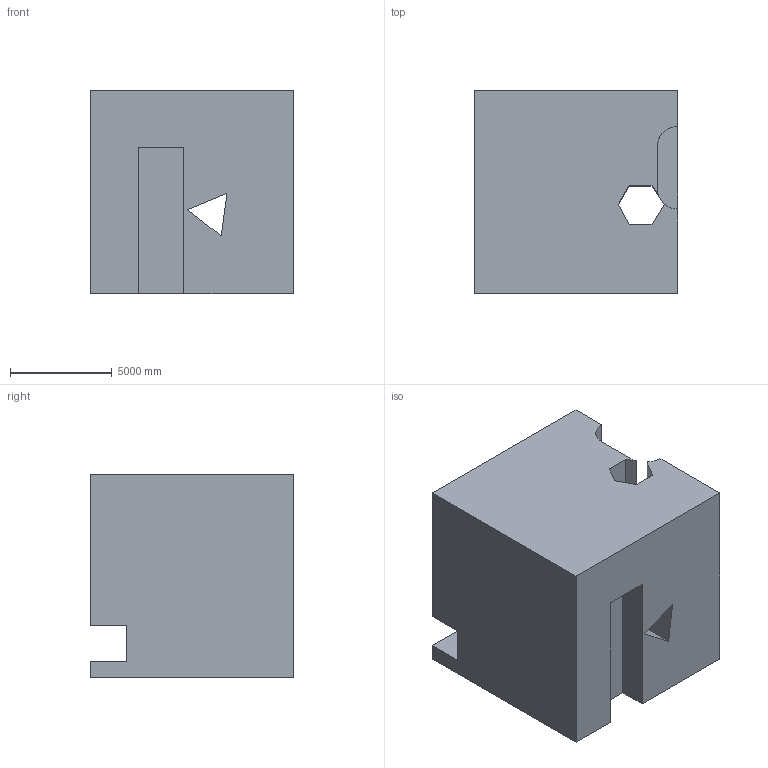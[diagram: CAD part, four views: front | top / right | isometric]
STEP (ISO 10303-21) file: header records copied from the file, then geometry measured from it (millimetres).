
FILE_DESCRIPTION (( 'STEP AP203' ), '1' );
FILE_NAME ('113.STEP', '2022-08-31T11:39:22', ( 'user' ), ( '' ), 'SwSTEP 2.0', 'SolidWorks 2021', '' );
FILE_SCHEMA (( 'CONFIG_CONTROL_DESIGN' ));
Length unit declared in the file: centimetre
Products named in the file (1): 113
Bounding box: 10000 x 10000 x 10000 mm (x, y, z)
Volume: 875522290363.9 mm3; surface area: 773738054.5 mm2
Topology: 1 solids, 1 shells, 35 faces, 101 edges, 67 vertices
Faces by surface type: plane 30, cylinder 5
Entity records: 1222 total; most frequent: CARTESIAN_POINT 204, ORIENTED_EDGE 202, DIRECTION 183, EDGE_CURVE 101, LINE 91, VECTOR 91, VERTEX_POINT 67, AXIS2_PLACEMENT_3D 46
